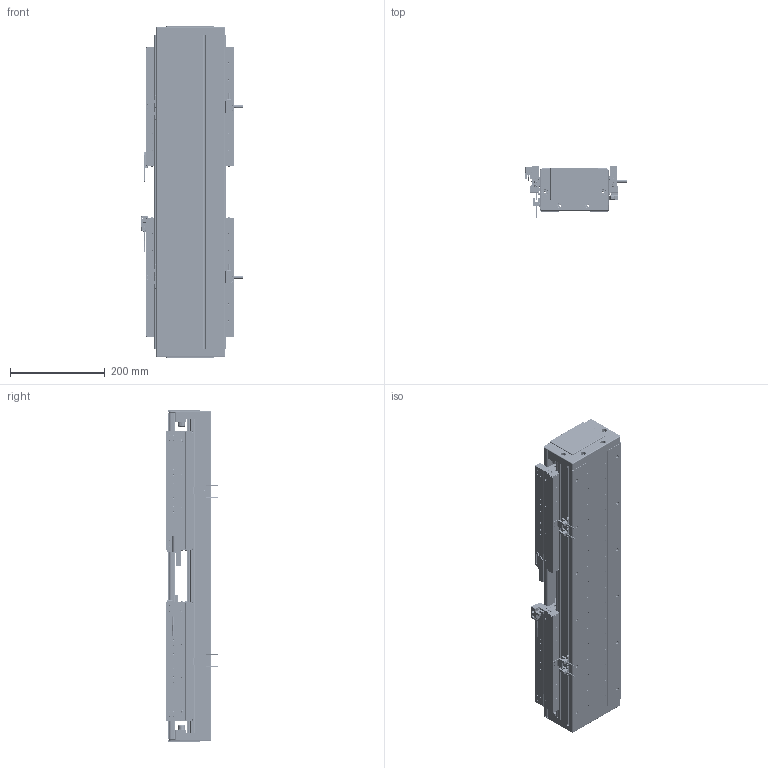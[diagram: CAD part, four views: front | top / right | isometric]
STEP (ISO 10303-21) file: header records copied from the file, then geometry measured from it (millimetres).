
FILE_DESCRIPTION (( 'STEP AP203' ), '1' );
FILE_NAME ('DA-C145-2-C3-T80-C010-0.2 眻盄萇儂.STEP', '2025-08-13T10:11:37', ( '' ), ( '' ), 'SwSTEP 2.0', 'SolidWorks 2019', '' );
FILE_SCHEMA (( 'CONFIG_CONTROL_DESIGN' ));
Length unit declared in the file: millimetre
Products named in the file (35): 葩璃 鞠褒情蹟譫 M3^DA-C145-2-C3-T-C010-0.2; TAY01-M8; IU-CU145-L-00 菁釱(L660); 葩璃 CKMA01-W060-TRL^DA-C145-2-C3-T-C010-0.2; 复件 半圆头内六角螺钉 M3×6^CU145-W 滚珠滑台; 复件 DA95-DB-00  挡板^CU145-W 滚珠滑台; 葩璃 PM-T45^DA-C145-2-C3-T-C010-0.2; 葩璃 DA95-GT-T-00^IU-CU145-L 菁釱絳寢; 葩璃 PM-Y65^DA-C145-2-C3-T-C010-0.2; CU145-W 幗紩賑怢-1; 复件 纯铜油杯 6x6mm^CU145-W 滚珠滑台; CU145-W-00 珨极趙賑雄怢啣; DA-C145-2-C3-T80-C010-0.2 眻盄萇儂; 葩璃 XD-U-02L 棠掑喜^DA-C145-2-C3-T-C010-0.2; 复件 DA95-MFP-01 密封片^CU145-W 滚珠滑台; 复件 DA145-C3-YB-B-00 压板B^CU145-W 滚珠滑台; 复件 内六角平端紧定螺钉 GB.T77-2000 M5×10^CU145-W 滚珠滑台; DKW-GYP-ZJ-00 笢潔嫖萇覜茼え; 葩璃 DA145-C3-DP-A-00 菜えA^CU145-W 幗紩賑怢; 葩璃 DA145-C3-DP-B-00 菜えB^CU145-W 幗紩賑怢; 葩璃 DA145-T-003-00 裔啣^DA-C145-2-C3-T-C010-0.2; 葩璃 DMA-010-0.2 黍杅芛^DA-C145-2-C3-T-C010-0.2; 复件 DA95-HK-GT-00 滑块钢轨^CU145-W-00 一体化滑动台板; 葩璃 CKM03-W060-C1C2-TP-0.2^DA-C145-2-C3-T-C010-0.2; 66245-CU145-HT-W-00 賑雄怢啣(3D芞祧)(00); CU145-W-00 珨极趙賑雄怢啣-1; 复件 DA145-C3-DK-00 挡块^CU145-W 滚珠滑台; DKW168-HXJ-ZJ-00 笢潔滅袉砎蝶; 复件 DA145-C3-YB-A-00 压板A^CU145-W 滚珠滑台; 葩璃 DA145-DG-H-N-00 傷裔^DA-C145-2-C3-T-C010-0.2; DKW-KGZ-ZJ-00 中间光电开关支架; CU145-W 幗紩賑怢; 葩璃 DA95-HXJ-00 遣喳砎蝶^DA-C145-2-C3-T-C010-0.2; 复件 DA145-GYP-00 光电感应片^DA-C145-2-C3-T-C010-0.2; IU-CU145-L 菁釱絳寢
Assembly tree (175 placements, depth 4):
  DA-C145-2-C3-T80-C010-0.2 眻盄萇儂
    IU-CU145-L 菁釱絳寢
      IU-CU145-L-00 菁釱(L660)
      葩璃 DA95-GT-T-00^IU-CU145-L 菁釱絳寢  x4
    CU145-W 幗紩賑怢
      CU145-W-00 珨极趙賑雄怢啣
        66245-CU145-HT-W-00 賑雄怢啣(3D芞祧)(00)
        复件 DA95-HK-GT-00 滑块钢轨^CU145-W-00 一体化滑动台板  x8
      复件 DA95-MFP-01 密封片^CU145-W 滚珠滑台  x8
      复件 DA95-DB-00  挡板^CU145-W 滚珠滑台  x8
      复件 内六角平端紧定螺钉 GB.T77-2000 M5×10^CU145-W 滚珠滑台  x4
      复件 纯铜油杯 6x6mm^CU145-W 滚珠滑台  x4
      复件 半圆头内六角螺钉 M3×6^CU145-W 滚珠滑台  x16
      复件 DA145-C3-DK-00 挡块^CU145-W 滚珠滑台  x4
      葩璃 DA145-C3-DP-B-00 菜えB^CU145-W 幗紩賑怢  x2
      复件 DA145-C3-YB-B-00 压板B^CU145-W 滚珠滑台  x2
      葩璃 DA145-C3-DP-A-00 菜えA^CU145-W 幗紩賑怢  x3
      复件 DA145-C3-YB-A-00 压板A^CU145-W 滚珠滑台  x3
      TAY01-M8  x4
    CU145-W 幗紩賑怢-1
      CU145-W-00 珨极趙賑雄怢啣-1
        66245-CU145-HT-W-00 賑雄怢啣(3D芞祧)(00)
        复件 DA95-HK-GT-00 滑块钢轨^CU145-W-00 一体化滑动台板  x8
      复件 DA95-MFP-01 密封片^CU145-W 滚珠滑台  x8
      复件 DA95-DB-00  挡板^CU145-W 滚珠滑台  x8
      复件 内六角平端紧定螺钉 GB.T77-2000 M5×10^CU145-W 滚珠滑台  x4
      复件 纯铜油杯 6x6mm^CU145-W 滚珠滑台  x4
      复件 半圆头内六角螺钉 M3×6^CU145-W 滚珠滑台  x16
      复件 DA145-C3-DK-00 挡块^CU145-W 滚珠滑台  x4
      葩璃 DA145-C3-DP-B-00 菜えB^CU145-W 幗紩賑怢  x2
      复件 DA145-C3-YB-B-00 压板B^CU145-W 滚珠滑台  x2
      葩璃 DA145-C3-DP-A-00 菜えA^CU145-W 幗紩賑怢  x3
      复件 DA145-C3-YB-A-00 压板A^CU145-W 滚珠滑台  x3
      TAY01-M8  x4
    葩璃 CKMA01-W060-TRL^DA-C145-2-C3-T-C010-0.2
    葩璃 PM-T45^DA-C145-2-C3-T-C010-0.2  x4
    葩璃 XD-U-02L 棠掑喜^DA-C145-2-C3-T-C010-0.2
    葩璃 DA145-DG-H-N-00 傷裔^DA-C145-2-C3-T-C010-0.2  x2
    葩璃 DA145-T-003-00 裔啣^DA-C145-2-C3-T-C010-0.2
    葩璃 DA95-HXJ-00 遣喳砎蝶^DA-C145-2-C3-T-C010-0.2  x4
    葩璃 CKM03-W060-C1C2-TP-0.2^DA-C145-2-C3-T-C010-0.2  x2
    葩璃 DMA-010-0.2 黍杅芛^DA-C145-2-C3-T-C010-0.2  x2
    复件 DA145-GYP-00 光电感应片^DA-C145-2-C3-T-C010-0.2  x2
    DKW-GYP-ZJ-00 笢潔嫖萇覜茼え
    DKW-KGZ-ZJ-00 中间光电开关支架
    葩璃 PM-Y65^DA-C145-2-C3-T-C010-0.2
    葩璃 鞠褒情蹟譫 M3^DA-C145-2-C3-T-C010-0.2  x8
    DKW168-HXJ-ZJ-00 笢潔滅袉砎蝶
Bounding box: 213.7 x 108.45 x 700 mm (x, y, z)
Volume: 7275097.1 mm3; surface area: 1877633.6 mm2
Topology: 171 solids, 235 shells, 6736 faces, 17170 edges, 10479 vertices
Faces by surface type: plane 2924, cylinder 2524, cone 1120, torus 152, sphere 8, bspline 8
Entity records: 95369 total; most frequent: CARTESIAN_POINT 21704, DIRECTION 14009, ORIENTED_EDGE 13504, EDGE_CURVE 6752, AXIS2_PLACEMENT_3D 5057, VERTEX_POINT 4328, LINE 3895, VECTOR 3895
